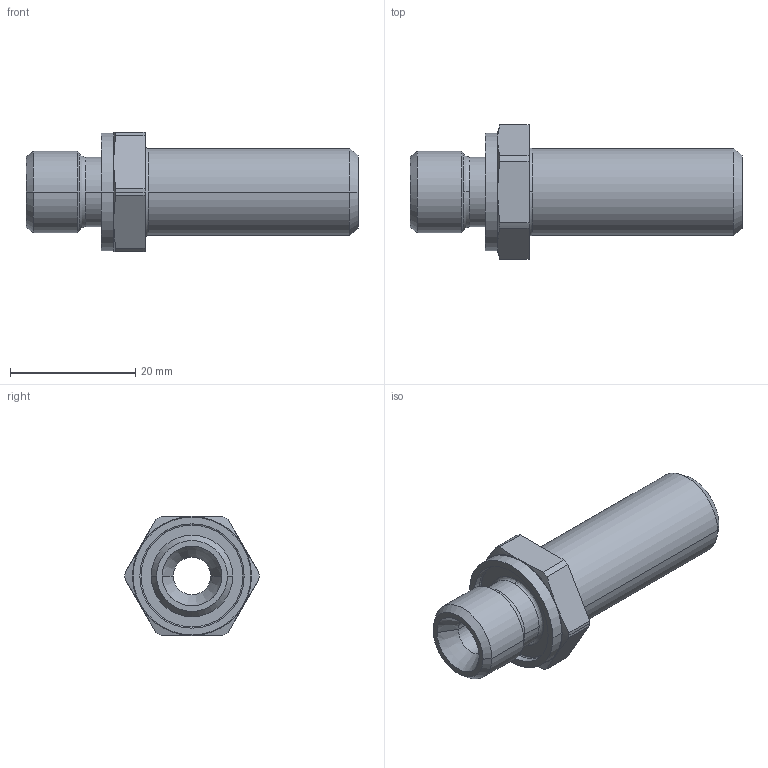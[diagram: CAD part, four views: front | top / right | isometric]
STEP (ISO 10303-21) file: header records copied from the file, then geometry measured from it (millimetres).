
FILE_DESCRIPTION((''),'2;1');
FILE_NAME('104905.stp','2007-10-31T13:59:54',(''),(''),'AutoCAD STEP 2000i','AutoCAD 2000i',', , ');
FILE_SCHEMA(('CONFIG_CONTROL_DESIGN'));
Length unit declared in the file: millimetre
Products named in the file (2): 104905.0; CHIAVE SMUSSX1036#0
Assembly tree (1 placements, depth 2):
  104905.0
    CHIAVE SMUSSX1036#0
Bounding box: 53 x 21.4 x 19 mm (x, y, z)
Volume: 6725.9 mm3; surface area: 4053.8 mm2
Topology: 1 solids, 1 shells, 63 faces, 157 edges, 101 vertices
Faces by surface type: cylinder 22, cone 16, plane 13, bspline 10, torus 2
Entity records: 2425 total; most frequent: CARTESIAN_POINT 787, DIRECTION 356, ORIENTED_EDGE 314, EDGE_CURVE 157, AXIS2_PLACEMENT_3D 156, VERTEX_POINT 101, CIRCLE 101, EDGE_LOOP 70
